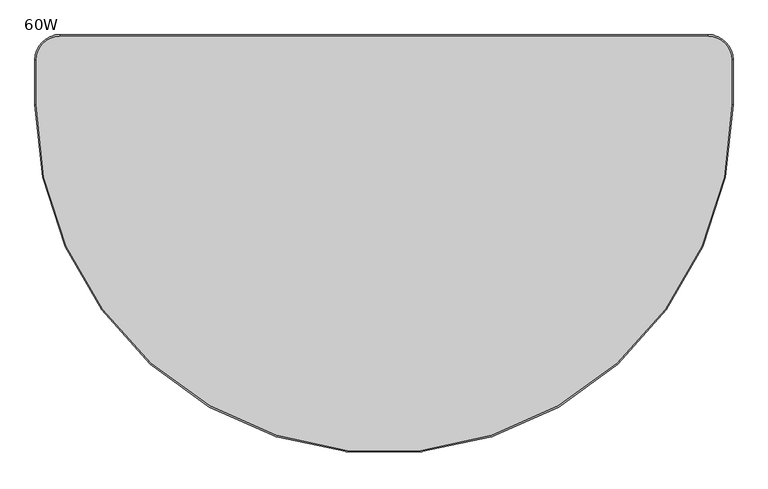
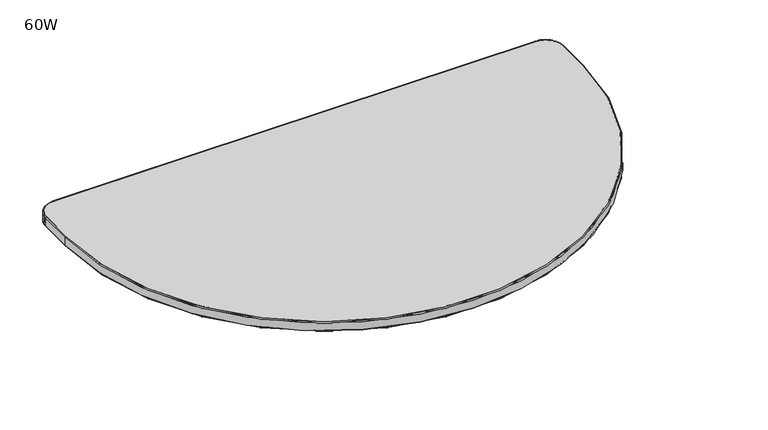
"""IFC4 building model written with IfcOpenShell, lengths in millimetres: furniture geometry, Steelcase - Answer Solution - Universal Table - Spanner : 60W."""

from ifc_helpers import new_model, si_unit, point, frame, frame_2d, origin, place, context, project, spatial, polyline, circle_curve, ellipse_curve, trimmed, segment, composite_curve, outline, extrude, source, transform, mapped, element, save
from ifc_brep_helpers import plane_surface, cylinder_surface, revolved_surface, advanced_brep


def furniture_60w_297c2ae5(model_context):
    return source(origin(), model_context, "Body", "SolidModel", [
        extrude(outline(composite_curve([segment(polyline([(-708.152, -3.0479999), (708.152, -3.0479999)]), True, "CONTINUOUS"), segment(trimmed(circle_curve(frame_2d((708.152, -53.8479999)), 50.8), [point((708.152, -3.0479999))], [point((758.952, -53.8479999))], False, "CARTESIAN"), True, "CONTINUOUS"), segment(polyline([(758.952, -53.8479999), (758.952, -152.3999999)]), True, "CONTINUOUS"), segment(trimmed(circle_curve(frame_2d((0.0, -152.3999999)), 758.952), [point((758.952, -152.3999999))], [point((-758.952, -152.3999999))], False, "CARTESIAN"), True, "CONTINUOUS"), segment(polyline([(-758.952, -152.3999999), (-758.952, -53.8479999)]), True, "CONTINUOUS"), segment(trimmed(circle_curve(frame_2d((-708.152, -53.8479999)), 50.8), [point((-758.952, -53.8479999))], [point((-708.152, -3.0479999))], False, "CARTESIAN"), True, "CONTINUOUS")], self_intersect=False)), frame((0.0, 0.0, 668.274), z_axis=(0.0, 0.0, 1.0), x_axis=(1.0, 0.0, 0.0)), (0.0, 0.0, 1.0), 30.1752685),
        advanced_brep(
        [(-761.9999999, -53.8479999, 671.3219999), (-708.152, 0.0, 671.3219999), (-708.152, -3.0479999, 668.274), (-758.952, -53.8479999, 668.274), (-761.9999999, -53.8479999, 695.4012686), (-708.152, 0.0, 695.4012686), (-758.952, -53.8479999, 698.4492685), (-708.152, -3.0479999, 698.4492685), (-758.952, -152.3999999, 668.274), (-761.9999999, -152.3999999, 671.3219999), (-761.9999999, -152.3999999, 695.4012686), (-758.952, -152.3999999, 698.4492685), (761.9999999, -152.3999999, 671.3219999), (758.952, -152.3999999, 668.274), (761.9999999, -152.3999999, 695.4012686), (758.952, -152.3999999, 698.4492685), (758.952, -53.8479999, 668.274), (761.9999999, -53.8479999, 671.3219999), (761.9999999, -53.8479999, 695.4012686), (758.952, -53.8479999, 698.4492685), (708.152, 0.0, 671.3219999), (708.152, -3.0479999, 668.274), (708.152, 0.0, 695.4012686), (708.152, -3.0479999, 698.4492685)],
        [
            (0, 1, circle_curve(frame((-708.152, -53.8479999, 671.3219999), z_axis=(0.0, 0.0, -1.0), x_axis=(0.0, 1.0, 0.0)), 53.8479999)),
            (1, 2, circle_curve(frame((-708.152, -3.0479999, 671.3219999), z_axis=(-1.0, 0.0, 0.0), x_axis=(0.0, -1.0, 0.0)), 3.0479999)),
            (2, 3, circle_curve(frame((-708.152, -53.8479999, 668.274), z_axis=(0.0, 0.0, 1.0), x_axis=(0.0, 1.0, 0.0)), 50.8)),
            (3, 0, circle_curve(frame((-758.952, -53.8479999, 671.3219999), z_axis=(0.0, 1.0, 0.0), x_axis=(1.0, 0.0, 0.0)), 3.0479999)),
            (4, 5, circle_curve(frame((-708.152, -53.8479999, 695.4012686), z_axis=(0.0, 0.0, -1.0), x_axis=(0.0, 1.0, 0.0)), 53.8479999)),
            (5, 1),
            (0, 4),
            (6, 7, circle_curve(frame((-708.152, -53.8479999, 698.4492685), z_axis=(0.0, 0.0, -1.0), x_axis=(0.0, 1.0, 0.0)), 50.8)),
            (7, 5, circle_curve(frame((-708.152, -3.0479999, 695.4012686), z_axis=(-1.0, 0.0, 0.0), x_axis=(0.0, -1.0, 0.0)), 3.0479999)),
            (4, 6, circle_curve(frame((-758.952, -53.8479999, 695.4012686), z_axis=(0.0, 1.0, 0.0), x_axis=(1.0, 0.0, 0.0)), 3.0479999)),
            (2, 7),
            (6, 3),
            (3, 8),
            (8, 9, circle_curve(frame((-758.952, -152.3999999, 671.3219999), z_axis=(0.0, 1.0, 0.0), x_axis=(1.0, 0.0, 0.0)), 3.0479999)),
            (9, 0),
            (9, 10),
            (10, 4),
            (10, 11, circle_curve(frame((-758.952, -152.3999999, 695.4012686), z_axis=(0.0, 1.0, 0.0), x_axis=(1.0, 0.0, 0.0)), 3.0479999)),
            (11, 6),
            (11, 8),
            (12, 9, circle_curve(frame((0.0, -152.3999999, 671.3219999), z_axis=(0.0, 0.0, -1.0), x_axis=(-1.0, 0.0, 0.0)), 761.9999999)),
            (8, 13, circle_curve(frame((0.0, -152.3999999, 668.274), z_axis=(0.0, 0.0, 1.0), x_axis=(-1.0, 0.0, 0.0)), 758.952)),
            (13, 12, circle_curve(frame((758.952, -152.3999999, 671.3219999), z_axis=(0.0, -1.0, 0.0), x_axis=(-1.0, 0.0, 0.0)), 3.0479999)),
            (14, 10, circle_curve(frame((0.0, -152.3999999, 695.4012686), z_axis=(0.0, 0.0, -1.0), x_axis=(-1.0, 0.0, 0.0)), 761.9999999)),
            (12, 14),
            (15, 11, circle_curve(frame((0.0, -152.3999999, 698.4492685), z_axis=(0.0, 0.0, -1.0), x_axis=(-1.0, 0.0, 0.0)), 758.952)),
            (14, 15, circle_curve(frame((758.952, -152.3999999, 695.4012686), z_axis=(0.0, -1.0, 0.0), x_axis=(-1.0, 0.0, 0.0)), 3.0479999)),
            (15, 13),
            (13, 16),
            (16, 17, circle_curve(frame((758.952, -53.8479999, 671.3219999), z_axis=(0.0, -1.0, 0.0), x_axis=(-1.0, 0.0, 0.0)), 3.0479999)),
            (17, 12),
            (17, 18),
            (18, 14),
            (18, 19, circle_curve(frame((758.952, -53.8479999, 695.4012686), z_axis=(0.0, -1.0, 0.0), x_axis=(-1.0, 0.0, 0.0)), 3.0479999)),
            (19, 15),
            (19, 16),
            (20, 17, circle_curve(frame((708.152, -53.8479999, 671.3219999), z_axis=(0.0, 0.0, -1.0), x_axis=(1.0, 0.0, 0.0)), 53.8479999)),
            (16, 21, circle_curve(frame((708.152, -53.8479999, 668.274), z_axis=(0.0, 0.0, 1.0), x_axis=(1.0, 0.0, 0.0)), 50.8)),
            (21, 20, circle_curve(frame((708.152, -3.0479999, 671.3219999), z_axis=(1.0, 0.0, 0.0), x_axis=(0.0, -1.0, 0.0)), 3.0479999)),
            (22, 18, circle_curve(frame((708.152, -53.8479999, 695.4012686), z_axis=(0.0, 0.0, -1.0), x_axis=(1.0, 0.0, 0.0)), 53.8479999)),
            (20, 22),
            (23, 19, circle_curve(frame((708.152, -53.8479999, 698.4492685), z_axis=(0.0, 0.0, -1.0), x_axis=(1.0, 0.0, 0.0)), 50.8)),
            (22, 23, circle_curve(frame((708.152, -3.0479999, 695.4012686), z_axis=(1.0, 0.0, 0.0), x_axis=(0.0, -1.0, 0.0)), 3.0479999)),
            (23, 21),
            (21, 2),
            (1, 20),
            (5, 22),
            (7, 23),
        ],
        [
            revolved_surface(trimmed(ellipse_curve(frame((-708.152, -3.0479999, 671.3219999), z_axis=(1.0, 0.0, 0.0), x_axis=(0.0, -1.0, 0.0)), 3.0479999, 3.0479999), [point((-708.152, -3.0479999, 668.274))], [point((-708.152, 0.0, 671.3219999))], True, "CARTESIAN"), (-708.152, -53.8479999, 668.274), (0.0, 0.0, 1.0)),
            cylinder_surface(frame((-708.152, -53.8479999, 668.274), z_axis=(0.0, 0.0, 1.0), x_axis=(0.0, 1.0, 0.0)), 53.8479999),
            revolved_surface(trimmed(ellipse_curve(frame((-708.152, -3.0479999, 695.4012686), z_axis=(1.0, 0.0, 0.0), x_axis=(0.0, -1.0, 0.0)), 3.0479999, 3.0479999), [point((-708.152, 0.0, 695.4012686))], [point((-708.152, -3.0479999, 698.4492685))], True, "CARTESIAN"), (-708.152, -53.8479999, 668.274), (0.0, 0.0, 1.0)),
            revolved_surface(polyline([(-708.152, -3.0479999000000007, 698.4492685), (-708.152, -3.0479999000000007, 668.274)]), (-708.152, -53.8479999, 668.274), (0.0, 0.0, 1.0)),
            cylinder_surface(frame((-758.952, -53.8479999, 671.3219999), z_axis=(0.0, 1.0, 0.0), x_axis=(1.0, 0.0, 0.0)), 3.0479999),
            plane_surface(frame((-761.9999999, -53.8479999, 671.3219999), z_axis=(-1.0, 0.0, 0.0), x_axis=(0.0, -1.0, 0.0))),
            cylinder_surface(frame((-758.952, -53.8479999, 695.4012686), z_axis=(0.0, 1.0, 0.0), x_axis=(1.0, 0.0, 0.0)), 3.0479999),
            plane_surface(frame((-758.952, -53.8479999, 698.4492685), z_axis=(1.0, 0.0, 0.0), x_axis=(0.0, -1.0, 0.0))),
            revolved_surface(trimmed(ellipse_curve(frame((-758.952, -152.3999999, 671.3219999), z_axis=(0.0, 1.0, 0.0), x_axis=(1.0, 0.0, 0.0)), 3.0479999, 3.0479999), [point((-758.952, -152.3999999, 668.274))], [point((-761.9999999, -152.3999999, 671.3219999))], True, "CARTESIAN"), (0.0, -152.3999999, 668.274), (0.0, 0.0, 1.0)),
            cylinder_surface(frame((0.0, -152.3999999, 668.274), z_axis=(0.0, 0.0, 1.0), x_axis=(-1.0, 0.0, 0.0)), 761.9999999),
            revolved_surface(trimmed(ellipse_curve(frame((-758.952, -152.3999999, 695.4012686), z_axis=(0.0, 1.0, 0.0), x_axis=(1.0, 0.0, 0.0)), 3.0479999, 3.0479999), [point((-761.9999999, -152.3999999, 695.4012686))], [point((-758.952, -152.3999999, 698.4492685))], True, "CARTESIAN"), (0.0, -152.3999999, 668.274), (0.0, 0.0, 1.0)),
            revolved_surface(polyline([(-758.952, -152.3999999, 698.4492685), (-758.952, -152.3999999, 668.274)]), (0.0, -152.3999999, 668.274), (0.0, 0.0, 1.0)),
            cylinder_surface(frame((758.952, -152.3999999, 671.3219999), z_axis=(0.0, -1.0, 0.0), x_axis=(-1.0, 0.0, 0.0)), 3.0479999),
            plane_surface(frame((761.9999999, -152.3999999, 671.3219999), z_axis=(1.0, 0.0, 0.0), x_axis=(0.0, 1.0, 0.0))),
            cylinder_surface(frame((758.952, -152.3999999, 695.4012686), z_axis=(0.0, -1.0, 0.0), x_axis=(-1.0, 0.0, 0.0)), 3.0479999),
            plane_surface(frame((758.952, -152.3999999, 698.4492685), z_axis=(-1.0, 0.0, 0.0), x_axis=(0.0, 1.0, 0.0))),
            revolved_surface(trimmed(ellipse_curve(frame((758.952, -53.8479999, 671.3219999), z_axis=(0.0, -1.0, 0.0), x_axis=(-1.0, 0.0, 0.0)), 3.0479999, 3.0479999), [point((758.952, -53.8479999, 668.274))], [point((761.9999999, -53.8479999, 671.3219999))], True, "CARTESIAN"), (708.152, -53.8479999, 668.274), (0.0, 0.0, 1.0)),
            cylinder_surface(frame((708.152, -53.8479999, 668.274), z_axis=(0.0, 0.0, 1.0), x_axis=(1.0, 0.0, 0.0)), 53.8479999),
            revolved_surface(trimmed(ellipse_curve(frame((758.952, -53.8479999, 695.4012686), z_axis=(0.0, -1.0, 0.0), x_axis=(-1.0, 0.0, 0.0)), 3.0479999, 3.0479999), [point((761.9999999, -53.8479999, 695.4012686))], [point((758.952, -53.8479999, 698.4492685))], True, "CARTESIAN"), (708.152, -53.8479999, 668.274), (0.0, 0.0, 1.0)),
            revolved_surface(polyline([(758.952, -53.8479999, 698.4492685), (758.952, -53.8479999, 668.274)]), (708.152, -53.8479999, 668.274), (0.0, 0.0, 1.0)),
            cylinder_surface(frame((708.152, -3.0479999, 671.3219999), z_axis=(1.0, 0.0, 0.0), x_axis=(0.0, -1.0, 0.0)), 3.0479999),
            plane_surface(frame((708.152, 0.0, 671.3219999), z_axis=(0.0, 1.0, 0.0), x_axis=(-1.0, 0.0, 0.0))),
            cylinder_surface(frame((708.152, -3.0479999, 695.4012686), z_axis=(1.0, 0.0, 0.0), x_axis=(0.0, -1.0, 0.0)), 3.0479999),
            plane_surface(frame((708.152, -3.0479999, 698.4492685), z_axis=(0.0, -1.0, 0.0), x_axis=(-1.0, 0.0, 0.0))),
        ],
        [
            (0, [[1, 2, 3, 4]]),
            (1, [[5, 6, -1, 7]]),
            (2, [[8, 9, -5, 10]]),
            (3, [[-3, 11, -8, 12]]),
            (4, [[-4, 13, 14, 15]]),
            (5, [[-7, -15, 16, 17]]),
            (6, [[-10, -17, 18, 19]]),
            (7, [[-12, -19, 20, -13]]),
            (8, [[21, -14, 22, 23]]),
            (9, [[24, -16, -21, 25]]),
            (10, [[26, -18, -24, 27]]),
            (11, [[-22, -20, -26, 28]]),
            (12, [[-23, 29, 30, 31]]),
            (13, [[-25, -31, 32, 33]]),
            (14, [[-27, -33, 34, 35]]),
            (15, [[-28, -35, 36, -29]]),
            (16, [[37, -30, 38, 39]]),
            (17, [[40, -32, -37, 41]]),
            (18, [[42, -34, -40, 43]]),
            (19, [[-38, -36, -42, 44]]),
            (20, [[-39, 45, -2, 46]]),
            (21, [[-41, -46, -6, 47]]),
            (22, [[-43, -47, -9, 48]]),
            (23, [[-44, -48, -11, -45]]),
        ],
    ),
    ])


if __name__ == "__main__":
    model = new_model("IFC4")
    model_context = context("Model", 3, world=origin())
    ifc_project = project(units=[si_unit("LENGTHUNIT", "METRE", prefix="MILLI")], contexts=[model_context])
    site = spatial("IfcSite", under=ifc_project)
    building = spatial("IfcBuilding", under=site)
    placement = place(None, origin())
    furniture_60w_shape = furniture_60w_297c2ae5(model_context)
    element("IfcFurniture", 1, ObjectType="Steelcase - Answer Solution - Universal Table - Spanner : 60W", at=placement, inside=building, context=model_context, shape_type="MappedRepresentation", body=[
        mapped(furniture_60w_shape, transform((0.0, 0.0, 0.0), x_axis=(1.0, 0.0, 0.0), y_axis=(0.0, 1.0, 0.0), z_axis=(0.0, 0.0, 1.0))),
    ])
    save(model, "model.ifc")
